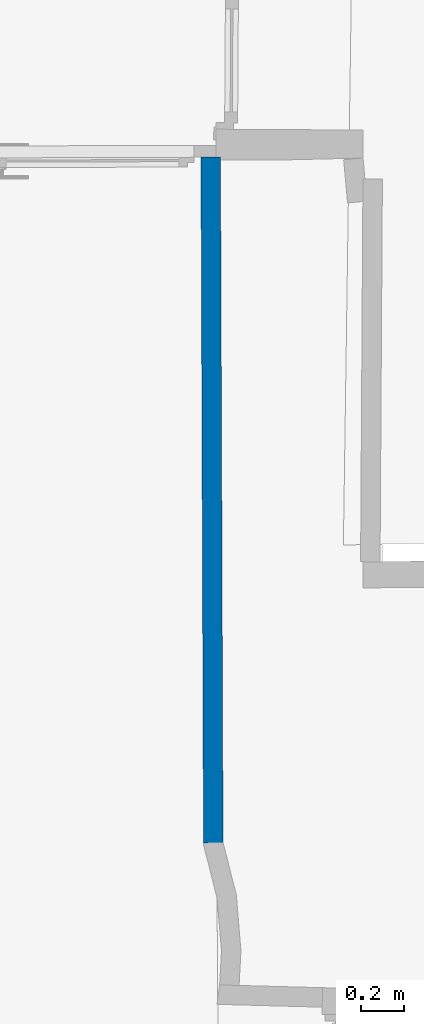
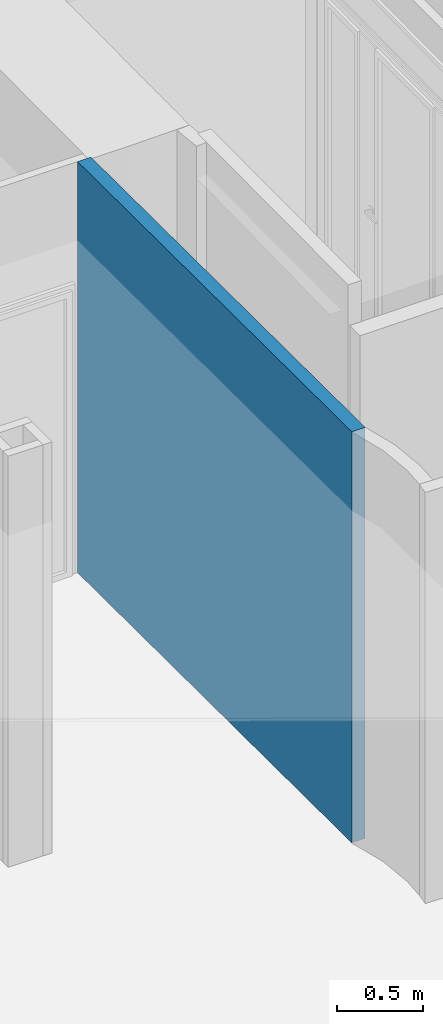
# One storey, part 97 of 133: 1 wall.
"""IFC2X3 building model written with IfcOpenShell, lengths in centimetres."""

from ifc_helpers import new_model, entity, si_unit, converted_unit, direction, frame, origin, origin_with_axes, place, context, subcontext, project, spatial, faceted_brep, material, layer, layer_set, layer_usage, type_object, element, save


model = new_model("IFC2X3")

# Units and contexts
model_context = context("Model", 3, precision=0.0001, world=origin(), true_north=direction((0.225632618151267, 0.974212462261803, 0.0)))
body_context = subcontext(model_context, "Body", "Model", "MODEL_VIEW")
ifc_project = project(units=[si_unit("LENGTHUNIT", "METRE", prefix="CENTI"), si_unit("AREAUNIT", "SQUARE_METRE", prefix="CENTI"), si_unit("VOLUMEUNIT", "CUBIC_METRE", prefix="CENTI"), converted_unit("PLANEANGLEUNIT", "DEGREE", entity("IfcRatioMeasure", 0.0174532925), si_unit("PLANEANGLEUNIT", "RADIAN"), dimensions=[0, 0, 0, 0, 0, 0, 0])], contexts=[model_context])

# Site, building, storey
site_placement = place(None, origin_with_axes())
site = spatial("IfcSite", under=ifc_project, at=site_placement, Name="Default Site", CompositionType="ELEMENT")
building_placement = place(site_placement, origin_with_axes())
building = spatial("IfcBuilding", under=site, at=building_placement, Name="Default Building", CompositionType="ELEMENT")
storey_placement = place(building_placement, frame((0.0, 0.0, -291.400371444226), z_axis=(0.0, 0.0, 1.0), x_axis=(1.0, 0.0, 0.0)))
storey = spatial("IfcBuildingStorey", under=building, at=storey_placement, Name="Rez-de-Jardin", CompositionType="ELEMENT", Elevation=-291.400371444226)

# Wall
ifc_material = material(Name="<aucun>")
ifc_layer = layer(ifc_material, 9.0)
ifc_layer_set = layer_set([ifc_layer], Name="default")
ifc_layer_usage = layer_usage(ifc_layer_set, "AXIS2", "POSITIVE", -4.5)
wall_type = type_object("IfcWallType", Name="default 90", PredefinedType="NOTDEFINED", material=ifc_layer_set)
wall_placement = place(storey_placement, frame((826.739927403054, -342.681637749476, -1.94511073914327e-11), z_axis=(0.0, 0.0, 1.0), x_axis=(-0.0037092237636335, 0.999993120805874, 0.0)))
element("IfcWall", 1, at=wall_placement, inside=storey, type_object=wall_type, material=ifc_layer_usage, Name="Enveloppe 594550", context=body_context, shape_type="Brep", body=[
    faceted_brep([(-6.43861048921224e-06, 4.49998722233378, 291.413221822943), (316.542150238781, 4.49998721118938, 291.413221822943), (316.542150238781, 4.49998721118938, 1.0383148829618e-05), (-6.43861048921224e-06, 4.49998722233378, 1.0383148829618e-05), (-1.07838859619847e-05, -4.49999456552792, 1.0383148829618e-05), (316.542148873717, -4.49999457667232, 1.0383148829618e-05), (316.542148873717, -4.49999457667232, 291.413221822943), (-1.07838859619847e-05, -4.49999456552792, 291.413221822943), (-6.43892734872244e-06, -4.49999456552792, 1.0383148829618e-05), (-6.43892734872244e-06, -4.49999456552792, 291.413221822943), (316.542150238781, 4.5000253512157, 291.413221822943), (316.542150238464, -4.49995644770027, 291.413221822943), (316.542150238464, -4.49995644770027, 1.0383148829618e-05), (316.542150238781, 4.5000253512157, 1.0383148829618e-05), (316.542148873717, -4.49995644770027, 291.413221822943), (316.542148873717, -4.49995644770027, 1.0383148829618e-05)], [[[0, 1, 2, 3]], [[4, 5, 6, 7]], [[3, 8, 9, 0]], [[10, 11, 12, 13]], [[7, 14, 10, 0]], [[3, 13, 15, 4]]]),
])

save(model, "model.ifc")
